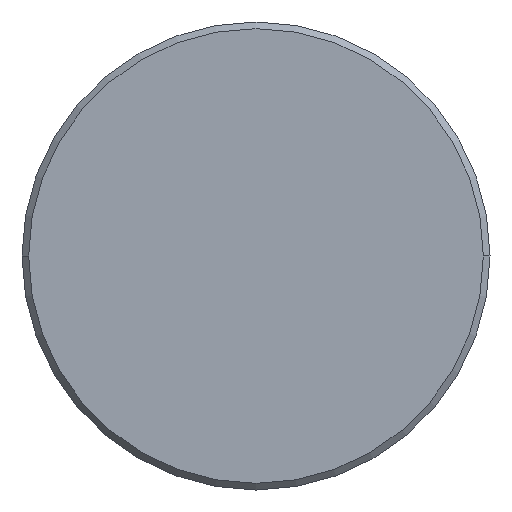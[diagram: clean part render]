
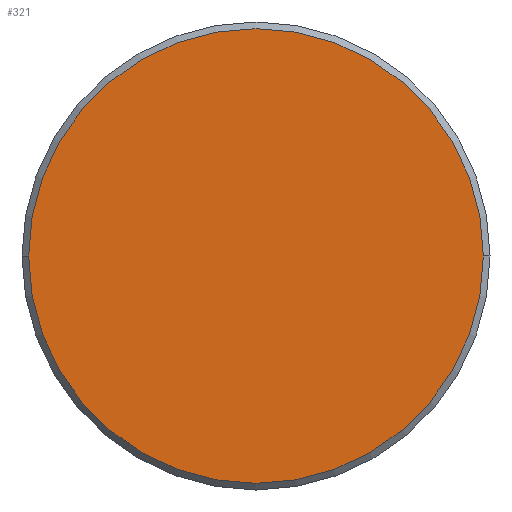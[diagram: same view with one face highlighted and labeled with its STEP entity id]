
A CAD part, left-side view. The second image highlights one B-rep face of the part: STEP entity #321.
In plain terms, the highlighted planar face has unit normal (-1, 0, 0).
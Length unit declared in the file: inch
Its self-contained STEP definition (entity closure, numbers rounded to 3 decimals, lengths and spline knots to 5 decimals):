
#19 = CARTESIAN_POINT ( 'NONE',  ( 0., -0.13662, 0. ) ) ;
#42 = ORIENTED_EDGE ( 'NONE', *, *, #111, .T. ) ;
#51 = CIRCLE ( 'NONE', #330, 0.13662 ) ;
#69 = EDGE_LOOP ( 'NONE', ( #264, #42 ) ) ;
#76 = DIRECTION ( 'NONE',  ( 0., -1., 0. ) ) ;
#77 = DIRECTION ( 'NONE',  ( -1., 0., 0. ) ) ;
#83 = PLANE ( 'NONE',  #275 ) ;
#111 = EDGE_CURVE ( 'NONE', #116, #335, #51, .T. ) ;
#116 = VERTEX_POINT ( 'NONE', #19 ) ;
#122 = CIRCLE ( 'NONE', #254, 0.13662 ) ;
#153 = CARTESIAN_POINT ( 'NONE',  ( 0., 0., 0. ) ) ;
#162 = DIRECTION ( 'NONE',  ( -1., 0., 0. ) ) ;
#208 = DIRECTION ( 'NONE',  ( -1., 0., 0. ) ) ;
#223 = EDGE_CURVE ( 'NONE', #335, #116, #122, .T. ) ;
#247 = CARTESIAN_POINT ( 'NONE',  ( 0., 0., 0. ) ) ;
#250 = CARTESIAN_POINT ( 'NONE',  ( 0., 0.13662, 0. ) ) ;
#254 = AXIS2_PLACEMENT_3D ( 'NONE', #247, #77, #282 ) ;
#264 = ORIENTED_EDGE ( 'NONE', *, *, #223, .T. ) ;
#273 = FACE_OUTER_BOUND ( 'NONE', #69, .T. ) ;
#275 = AXIS2_PLACEMENT_3D ( 'NONE', #317, #162, #379 ) ;
#282 = DIRECTION ( 'NONE',  ( 0., -1., 0. ) ) ;
#317 = CARTESIAN_POINT ( 'NONE',  ( 0., 0., 0. ) ) ;
#321 = ADVANCED_FACE ( 'NONE', ( #273 ), #83, .T. ) ;
#330 = AXIS2_PLACEMENT_3D ( 'NONE', #153, #208, #76 ) ;
#335 = VERTEX_POINT ( 'NONE', #250 ) ;
#379 = DIRECTION ( 'NONE',  ( 0., -1., 0. ) ) ;
